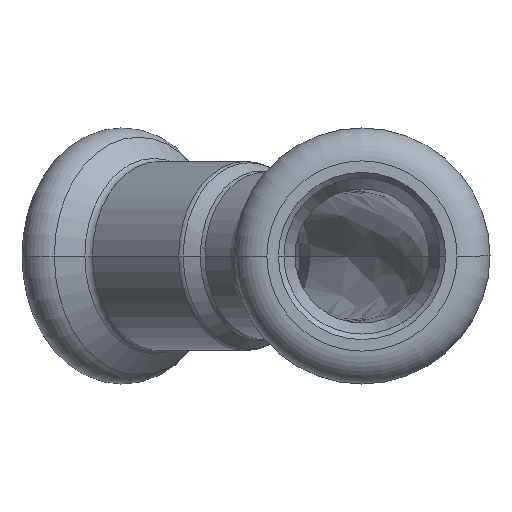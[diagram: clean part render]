
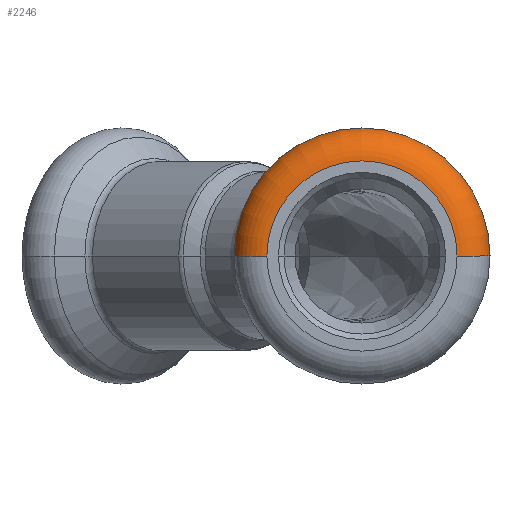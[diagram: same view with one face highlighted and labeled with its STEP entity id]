
A CAD part, left-side view. The second image highlights one B-rep face of the part: STEP entity #2246.
In plain terms, the highlighted toroidal (fillet/blend) face has major radius 8.65 mm and minor radius 3 mm.
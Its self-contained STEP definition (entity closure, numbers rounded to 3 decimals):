
#41 = CARTESIAN_POINT ( 'NONE',  ( -15.918, -20.19, 0. ) ) ;
#335 = FACE_OUTER_BOUND ( 'NONE', #2935, .T. ) ;
#544 = AXIS2_PLACEMENT_3D ( 'NONE', #741, #2527, #1362 ) ;
#703 = EDGE_CURVE ( 'NONE', #1822, #2214, #2183, .T. ) ;
#741 = CARTESIAN_POINT ( 'NONE',  ( -18., -22.35, 0. ) ) ;
#762 = DIRECTION ( 'NONE',  ( 0., 1., 0. ) ) ;
#768 = TOROIDAL_SURFACE ( 'NONE', #2533, 8.65, 3. ) ;
#798 = CARTESIAN_POINT ( 'NONE',  ( -21., -31., 0. ) ) ;
#1074 = DIRECTION ( 'NONE',  ( 0., 1., 0. ) ) ;
#1180 = DIRECTION ( 'NONE',  ( 0., -1., 0. ) ) ;
#1191 = DIRECTION ( 'NONE',  ( 1., 0., 0. ) ) ;
#1362 = DIRECTION ( 'NONE',  ( -1., 0., 0. ) ) ;
#1365 = CARTESIAN_POINT ( 'NONE',  ( -21., -39.65, 0. ) ) ;
#1513 = AXIS2_PLACEMENT_3D ( 'NONE', #2416, #1191, #1786 ) ;
#1679 = EDGE_CURVE ( 'NONE', #2340, #2957, #1857, .T. ) ;
#1759 = ORIENTED_EDGE ( 'NONE', *, *, #1679, .T. ) ;
#1786 = DIRECTION ( 'NONE',  ( 0., 1., 0. ) ) ;
#1822 = VERTEX_POINT ( 'NONE', #3425 ) ;
#1857 = CIRCLE ( 'NONE', #2351, 3. ) ;
#1997 = DIRECTION ( 'NONE',  ( 1., 0., 0. ) ) ;
#2044 = DIRECTION ( 'NONE',  ( 1., 0., 0. ) ) ;
#2183 = CIRCLE ( 'NONE', #544, 3. ) ;
#2200 = EDGE_CURVE ( 'NONE', #2214, #2957, #2218, .T. ) ;
#2214 = VERTEX_POINT ( 'NONE', #41 ) ;
#2218 = CIRCLE ( 'NONE', #1513, 10.81 ) ;
#2246 = ADVANCED_FACE ( 'NONE', ( #335 ), #768, .T. ) ;
#2340 = VERTEX_POINT ( 'NONE', #1365 ) ;
#2351 = AXIS2_PLACEMENT_3D ( 'NONE', #2970, #3555, #1180 ) ;
#2416 = CARTESIAN_POINT ( 'NONE',  ( -15.918, -31., 0. ) ) ;
#2527 = DIRECTION ( 'NONE',  ( 0., 0., -1. ) ) ;
#2533 = AXIS2_PLACEMENT_3D ( 'NONE', #3747, #1997, #1074 ) ;
#2790 = EDGE_CURVE ( 'NONE', #1822, #2340, #3102, .T. ) ;
#2873 = CARTESIAN_POINT ( 'NONE',  ( -15.918, -41.81, 0. ) ) ;
#2935 = EDGE_LOOP ( 'NONE', ( #3544, #1759, #3603, #3642 ) ) ;
#2957 = VERTEX_POINT ( 'NONE', #2873 ) ;
#2970 = CARTESIAN_POINT ( 'NONE',  ( -18., -39.65, 0. ) ) ;
#3102 = CIRCLE ( 'NONE', #3294, 8.65 ) ;
#3294 = AXIS2_PLACEMENT_3D ( 'NONE', #798, #2044, #762 ) ;
#3425 = CARTESIAN_POINT ( 'NONE',  ( -21., -22.35, 0. ) ) ;
#3544 = ORIENTED_EDGE ( 'NONE', *, *, #2790, .T. ) ;
#3555 = DIRECTION ( 'NONE',  ( 0., 0., 1. ) ) ;
#3603 = ORIENTED_EDGE ( 'NONE', *, *, #2200, .F. ) ;
#3642 = ORIENTED_EDGE ( 'NONE', *, *, #703, .F. ) ;
#3747 = CARTESIAN_POINT ( 'NONE',  ( -18., -31., 0. ) ) ;
